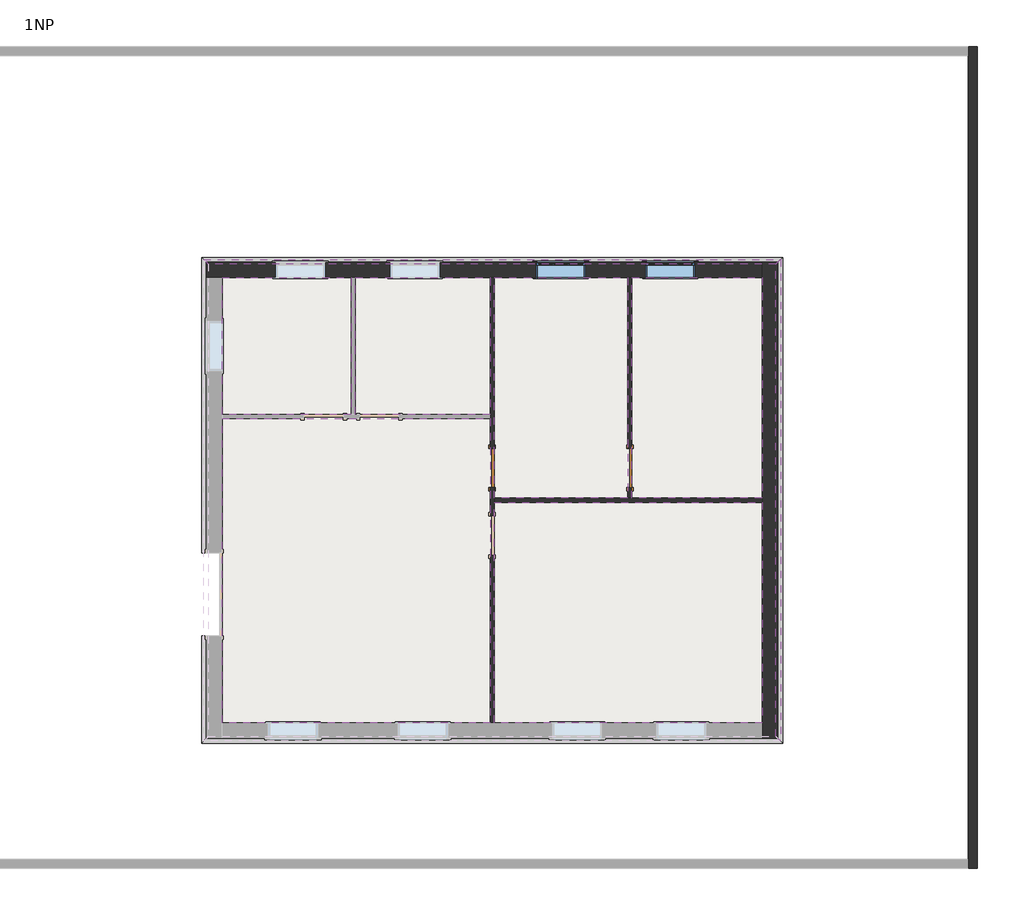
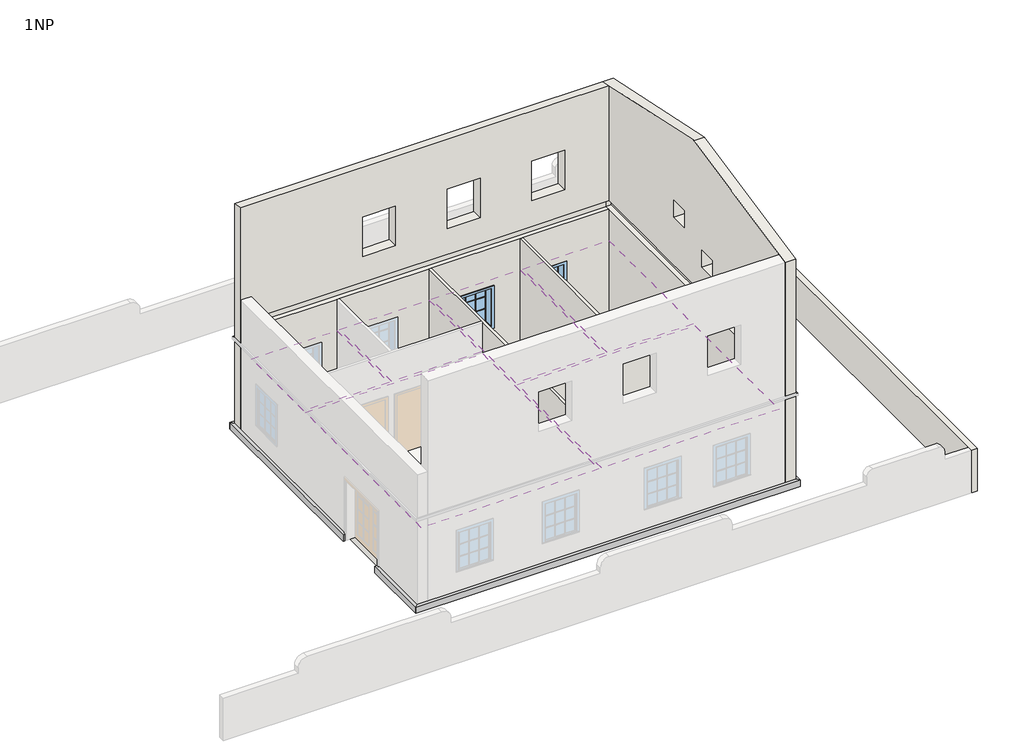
# One storey, part 2 of 2: 6 coverings, 6 proxies, 6 walls, 2 doors, 2 windows, 1 slab.
"""IFC4 building model written with IfcOpenShell, lengths in millimetres."""

from ifc_helpers import new_model, si_unit, frame, origin, origin_with_axes, place, context, project, spatial, polyline, outline, extrude, faceted_brep, transform, mapped, element, save
from components import m_single_flush_0864_x_2134mm_2f1c7364, m_casement_3x3_with_trim_1100_x_1400mm_61373874

model = new_model("IFC4")

# Units and contexts
model_context = context("Model", 3, world=origin())
ifc_project = project(units=[si_unit("LENGTHUNIT", "METRE", prefix="MILLI")], contexts=[model_context])

# Site, building, storey
site = spatial("IfcSite", under=ifc_project)
building = spatial("IfcBuilding", under=site)
storey = spatial("IfcBuildingStorey", under=building, Name="1NP", Elevation=0.0)

# Proxies
placement = place(None, origin())
element("IfcBuildingElementProxy", 1, Name="Wall Sweeps", at=placement, inside=storey, context=model_context, shape_type="Brep", body=[
    faceted_brep([(7957.8965437, -5261.3644596, 225.0), (7957.8965437, -5261.3644596, 0.0), (7855.3965437, -5158.8644596, 0.0), (7855.3965437, -5158.8644596, 225.0), (-4897.1034563, -5261.3644596, 225.0), (-4794.6034563, -5158.8644596, 225.0), (-4794.6034563, -5158.8644596, 0.0), (-4897.1034563, -5261.3644596, 0.0), (-4444.6034563, -5158.8644596, 0.0), (7505.3965437, -5158.8644596, 0.0)], [[[0, 1, 2, 3]], [[4, 5, 6, 7]], [[1, 0, 4, 7]], [[2, 1, 7, 6, 8, 9]], [[3, 2, 9, 8, 6, 5]], [[0, 3, 5, 4]]]),
])
element("IfcBuildingElementProxy", 2, Name="Reveals", at=placement, inside=storey, context=model_context, shape_type="SweptSolid", body=[
    extrude(outline(polyline([(-4749.6034563, 5346.1355404), (-4852.1034563, 5448.6355404), (7912.8965437, 5448.6355404), (7810.3965437, 5346.1355404), (-4749.6034563, 5346.1355404)])), frame((0.0, 0.0, 3200.0), z_axis=(0.0, 0.0, 1.0), x_axis=(1.0, 0.0, 0.0)), (0.0, 0.0, 1.0), 75.0),
])
element("IfcBuildingElementProxy", 3, Name="Wall Sweeps", at=placement, inside=storey, context=model_context, shape_type="Brep", body=[
    faceted_brep([(-4897.1034563, 5493.6355404, 225.0), (-4897.1034563, 5493.6355404, 0.0), (-4794.6034563, 5391.1355404, 0.0), (-4794.6034563, 5391.1355404, 225.0), (7957.8965437, 5493.6355404, 225.0), (7855.3965437, 5391.1355404, 225.0), (7855.3965437, 5391.1355404, 0.0), (7957.8965437, 5493.6355404, 0.0), (7505.3965437, 5391.1355404, 0.0)], [[[0, 1, 2, 3]], [[4, 5, 6, 7]], [[1, 0, 4, 7]], [[2, 1, 7, 6, 8]], [[3, 2, 8, 6, 5]], [[0, 3, 5, 4]]]),
])
element("IfcBuildingElementProxy", 4, Name="Wall Sweeps", at=placement, inside=storey, context=model_context, shape_type="Brep", body=[
    faceted_brep([(-4897.1034563, -5261.3644596, 225.0), (-4897.1034563, -5261.3644596, 0.0), (-4794.6034563, -5158.8644596, 0.0), (-4794.6034563, -5158.8644596, 225.0), (-4897.1034563, -2883.8644596, 225.0), (-4794.6034563, -2883.8644596, 225.0), (-4794.6034563, -2883.8644596, 0.0), (-4897.1034563, -2883.8644596, 0.0)], [[[0, 1, 2, 3]], [[4, 5, 6, 7]], [[1, 0, 4, 7]], [[2, 1, 7, 6]], [[3, 2, 6, 5]], [[0, 3, 5, 4]]]),
    faceted_brep([(-4897.1034563, -1053.8644596, 225.0), (-4897.1034563, -1053.8644596, 0.0), (-4794.6034563, -1053.8644596, 0.0), (-4794.6034563, -1053.8644596, 225.0), (-4897.1034563, 5493.6355404, 225.0), (-4794.6034563, 5391.1355404, 225.0), (-4794.6034563, 5391.1355404, 0.0), (-4897.1034563, 5493.6355404, 0.0), (-4794.6034563, 5041.1355404, 0.0)], [[[0, 1, 2, 3]], [[4, 5, 6, 7]], [[1, 0, 4, 7]], [[2, 1, 7, 6, 8]], [[3, 2, 8, 6, 5]], [[0, 3, 5, 4]]]),
])
element("IfcBuildingElementProxy", 5, Name="Reveals", at=placement, inside=storey, context=model_context, shape_type="SweptSolid", body=[
    extrude(outline(polyline([(7810.3965437, 5346.1355404), (7912.8965437, 5448.6355404), (7912.8965437, -5216.3644596), (7810.3965437, -5113.8644596), (7810.3965437, 5346.1355404)])), frame((0.0, 0.0, 3200.0), z_axis=(0.0, 0.0, 1.0), x_axis=(1.0, 0.0, 0.0)), (0.0, 0.0, 1.0), 75.0),
])
element("IfcBuildingElementProxy", 6, Name="Wall Sweeps", at=placement, inside=storey, context=model_context, shape_type="SweptSolid", body=[
    extrude(outline(polyline([(7855.3965437, 5391.1355404), (7957.8965437, 5493.6355404), (7957.8965437, -5261.3644596), (7855.3965437, -5158.8644596), (7855.3965437, 5391.1355404)])), origin_with_axes(), (0.0, 0.0, 1.0), 225.0),
])

# Coverings
element("IfcCovering", 7, ObjectType="600 x 600mm grid", at=placement, inside=storey, context=model_context, shape_type="SweptSolid", body=[
    extrude(outline(polyline([(-4444.6034563, -4808.8644596), (-4444.6034563, 1921.1355404), (1485.3965437, 1921.1355404), (1485.3965437, -4808.8644596), (-4444.6034563, -4808.8644596)])), frame((0.0, 0.0, 2600.0), z_axis=(0.0, 0.0, 1.0), x_axis=(1.0, 0.0, 0.0)), (0.0, 0.0, 1.0), 52.0),
])
element("IfcCovering", 8, ObjectType="600 x 600mm grid", at=placement, inside=storey, context=model_context, shape_type="SweptSolid", body=[
    extrude(outline(polyline([(-1499.6034563, 5041.1355404), (1485.3965437, 5041.1355404), (1485.3965437, 2011.1355404), (-1499.6034563, 2011.1355404), (-1499.6034563, 5041.1355404)])), frame((0.0, 0.0, 2600.0), z_axis=(0.0, 0.0, 1.0), x_axis=(1.0, 0.0, 0.0)), (0.0, 0.0, 1.0), 52.0),
])
element("IfcCovering", 9, ObjectType="600 x 600mm grid", at=placement, inside=storey, context=model_context, shape_type="SweptSolid", body=[
    extrude(outline(polyline([(-4444.6034563, 5041.1355404), (-1589.6034563, 5041.1355404), (-1589.6034563, 2011.1355404), (-4444.6034563, 2011.1355404), (-4444.6034563, 5041.1355404)])), frame((0.0, 0.0, 2600.0), z_axis=(0.0, 0.0, 1.0), x_axis=(1.0, 0.0, 0.0)), (0.0, 0.0, 1.0), 52.0),
])
element("IfcCovering", 10, ObjectType="600 x 600mm grid", at=placement, inside=storey, context=model_context, shape_type="SweptSolid", body=[
    extrude(outline(polyline([(1575.3965437, 161.1355404), (1575.3965437, 5041.1355404), (4535.3965437, 5041.1355404), (4535.3965437, 161.1355404), (1575.3965437, 161.1355404)])), frame((0.0, 0.0, 2600.0), z_axis=(0.0, 0.0, 1.0), x_axis=(1.0, 0.0, 0.0)), (0.0, 0.0, 1.0), 52.0),
])
element("IfcCovering", 11, ObjectType="600 x 600mm grid", at=placement, inside=storey, context=model_context, shape_type="SweptSolid", body=[
    extrude(outline(polyline([(4625.3965437, 5041.1355404), (7505.3965437, 5041.1355404), (7505.3965437, 161.1355404), (4625.3965437, 161.1355404), (4625.3965437, 5041.1355404)])), frame((0.0, 0.0, 2600.0), z_axis=(0.0, 0.0, 1.0), x_axis=(1.0, 0.0, 0.0)), (0.0, 0.0, 1.0), 52.0),
])
element("IfcCovering", 12, ObjectType="600 x 600mm grid", at=placement, inside=storey, context=model_context, shape_type="SweptSolid", body=[
    extrude(outline(polyline([(7505.3965437, -4808.8644596), (1575.3965437, -4808.8644596), (1575.3965437, 71.1355404), (7505.3965437, 71.1355404), (7505.3965437, -4808.8644596)])), frame((0.0, 0.0, 2600.0), z_axis=(0.0, 0.0, 1.0), x_axis=(1.0, 0.0, 0.0)), (0.0, 0.0, 1.0), 52.0),
])

# Doors
m_single_flush_0864_x_2134mm_shape = m_single_flush_0864_x_2134mm_2f1c7364(model_context)
element("IfcDoor", 13, ObjectType="M_Single-Flush : 0864 x 2134mm", at=placement, inside=storey, context=model_context, shape_type="MappedRepresentation", body=[
    mapped(m_single_flush_0864_x_2134mm_shape, transform((1530.3965437, 831.1817862, 0.0), x_axis=(0.0, -1.0, 0.0), y_axis=(1.0, 0.0, 0.0), z_axis=(0.0, 0.0, 1.0))),
])
element("IfcDoor", 14, ObjectType="M_Single-Flush : 0864 x 2134mm", at=placement, inside=storey, context=model_context, shape_type="MappedRepresentation", body=[
    mapped(m_single_flush_0864_x_2134mm_shape, transform((4580.3965437, 831.1817862, 0.0), x_axis=(0.0, -1.0, 0.0), y_axis=(1.0, 0.0, 0.0), z_axis=(0.0, 0.0, 1.0))),
])

# Slab
element("IfcSlab", 15, ObjectType="Generic 300mm", at=placement, inside=storey, context=model_context, shape_type="SweptSolid", body=[
    extrude(outline(polyline([(-4457.6034563, 5054.1355404), (7518.3965437, 5054.1355404), (7518.3965437, -4821.8644596), (-4457.6034563, -4821.8644596), (-4457.6034563, 5054.1355404)])), frame((0.0, 0.0, -300.0), z_axis=(0.0, 0.0, 1.0), x_axis=(1.0, 0.0, 0.0)), (0.0, 0.0, 1.0), 300.0),
])

# Walls
element("IfcWall", 16, ObjectType="Exterior - Brick on Mtl. Stud se základem", at=placement, inside=storey, context=model_context, shape_type="Brep", body=[
    faceted_brep([(-4794.6034563, 5041.1355404, 0.0), (-4444.6034563, 5041.1355404, 0.0), (-1589.6034563, 5041.1355404, 0.0), (-1499.6034563, 5041.1355404, 0.0), (1485.3965437, 5041.1355404, 0.0), (1575.3965437, 5041.1355404, 0.0), (4535.3965437, 5041.1355404, 0.0), (4625.3965437, 5041.1355404, 0.0), (7505.3965437, 5041.1355404, 0.0), (7505.3965437, 5041.1355404, 3700.0), (4625.3965437, 5041.1355404, 3700.0), (4535.3965437, 5041.1355404, 3700.0), (1575.3965437, 5041.1355404, 3700.0), (1485.3965437, 5041.1355404, 3700.0), (-1499.6034563, 5041.1355404, 3700.0), (-1589.6034563, 5041.1355404, 3700.0), (-4444.6034563, 5041.1355404, 3700.0), (-4609.6034563, 5041.1355404, 3700.0), (-4609.6034563, 5041.1355404, 4000.0), (-4444.6034563, 5041.1355404, 4000.0), (555.3965437, 5041.1355404, 4000.0), (655.3965437, 5041.1355404, 4000.0), (3655.3965437, 5041.1355404, 4000.0), (3755.3965437, 5041.1355404, 4000.0), (7505.3965437, 5041.1355404, 4000.0), (7505.3965437, 5041.1355404, 8074.3947966), (3755.3965437, 5041.1355404, 8074.3947966), (3655.3965437, 5041.1355404, 8074.3947966), (655.3965437, 5041.1355404, 8074.3947966), (555.3965437, 5041.1355404, 8074.3947966), (-4794.6034563, 5041.1355404, 8074.3947966), (-4794.6034563, 5041.1355404, 4800.0), (-4794.6034563, 5041.1355404, 3275.0), (-4749.6034563, 5041.1355404, 3275.0), (-4749.6034563, 5041.1355404, 3200.0), (-4794.6034563, 5041.1355404, 3200.0), (-4794.6034563, 5041.1355404, 225.0), (6022.8965437, 5041.1355404, 2315.0), (6022.8965437, 5041.1355404, 915.0), (4922.8965437, 5041.1355404, 915.0), (4922.8965437, 5041.1355404, 2315.0), (3597.8965437, 5041.1355404, 2315.0), (3597.8965437, 5041.1355404, 915.0), (2497.8965437, 5041.1355404, 915.0), (2497.8965437, 5041.1355404, 2315.0), (372.8965437, 5041.1355404, 2315.0), (372.8965437, 5041.1355404, 915.0), (-727.1034563, 5041.1355404, 915.0), (-727.1034563, 5041.1355404, 2315.0), (-2162.1034563, 5041.1355404, 2315.0), (-2162.1034563, 5041.1355404, 915.0), (-3262.1034563, 5041.1355404, 915.0), (-3262.1034563, 5041.1355404, 2315.0), (6022.8965437, 5041.1355404, 6315.0), (6022.8965437, 5041.1355404, 4915.0), (4922.8965437, 5041.1355404, 4915.0), (4922.8965437, 5041.1355404, 6315.0), (3197.8965437, 5041.1355404, 6315.0), (3197.8965437, 5041.1355404, 4915.0), (2097.8965437, 5041.1355404, 4915.0), (2097.8965437, 5041.1355404, 6315.0), (372.8965437, 5041.1355404, 6315.0), (372.8965437, 5041.1355404, 4915.0), (-727.1034563, 5041.1355404, 4915.0), (-727.1034563, 5041.1355404, 6315.0), (7505.3965437, 5391.1355404, 0.0), (-4794.6034563, 5391.1355404, 0.0), (-4794.6034563, 5391.1355404, 225.0), (-4794.6034563, 5391.1355404, 3200.0), (7505.3965437, 5391.1355404, 3200.0), (7505.3965437, 5391.1355404, 225.0), (6022.8965437, 5391.1355404, 915.0), (6022.8965437, 5391.1355404, 2315.0), (4922.8965437, 5391.1355404, 2315.0), (4922.8965437, 5391.1355404, 915.0), (3597.8965437, 5391.1355404, 915.0), (3597.8965437, 5391.1355404, 2315.0), (2497.8965437, 5391.1355404, 2315.0), (2497.8965437, 5391.1355404, 915.0), (372.8965437, 5391.1355404, 915.0), (372.8965437, 5391.1355404, 2315.0), (-727.1034563, 5391.1355404, 2315.0), (-727.1034563, 5391.1355404, 915.0), (-2162.1034563, 5391.1355404, 915.0), (-2162.1034563, 5391.1355404, 2315.0), (-3262.1034563, 5391.1355404, 2315.0), (-3262.1034563, 5391.1355404, 915.0), (-4794.6034563, 5391.1355404, 8000.0), (7505.3965437, 5391.1355404, 8000.0), (7505.3965437, 5391.1355404, 3275.0), (-4794.6034563, 5391.1355404, 3275.0), (6022.8965437, 5391.1355404, 4915.0), (6022.8965437, 5391.1355404, 6315.0), (4922.8965437, 5391.1355404, 6315.0), (4922.8965437, 5391.1355404, 4915.0), (3197.8965437, 5391.1355404, 4915.0), (3197.8965437, 5391.1355404, 6315.0), (2097.8965437, 5391.1355404, 6315.0), (2097.8965437, 5391.1355404, 4915.0), (372.8965437, 5391.1355404, 4915.0), (372.8965437, 5391.1355404, 6315.0), (-727.1034563, 5391.1355404, 6315.0), (-727.1034563, 5391.1355404, 4915.0), (7505.3965437, 5346.1355404, 3200.0), (7505.3965437, 5346.1355404, 3275.0), (7505.3965437, 5206.1355404, 4000.0), (7505.3965437, 5206.1355404, 3700.0), (-4609.6034563, 5206.1355404, 3700.0), (-4609.6034563, 5206.1355404, 4000.0), (-4749.6034563, 5346.1355404, 3275.0), (-4749.6034563, 5346.1355404, 3200.0)], [[[0, 1, 2, 3, 4, 5, 6, 7, 8, 9, 10, 11, 12, 13, 14, 15, 16, 17, 18, 19, 20, 21, 22, 23, 24, 25, 26, 27, 28, 29, 30, 31, 32, 33, 34, 35, 36], [37, 38, 39, 40], [41, 42, 43, 44], [45, 46, 47, 48], [49, 50, 51, 52], [53, 54, 55, 56], [57, 58, 59, 60], [61, 62, 63, 64]], [[65, 66, 67, 68, 69, 70], [71, 72, 73, 74], [75, 76, 77, 78], [79, 80, 81, 82], [83, 84, 85, 86]], [[87, 88, 89, 90], [91, 92, 93, 94], [95, 96, 97, 98], [99, 100, 101, 102]], [[8, 7, 6, 5, 4, 3, 2, 1, 0, 66, 65]], [[66, 0, 36, 35, 68, 67]], [[30, 87, 90, 32, 31]], [[8, 65, 70, 69, 103, 104, 89, 88, 25, 24, 105, 106, 9]], [[30, 29, 28, 27, 26, 25, 88, 87]], [[38, 37, 72, 71]], [[39, 38, 71, 74]], [[40, 39, 74, 73]], [[37, 40, 73, 72]], [[42, 41, 76, 75]], [[43, 42, 75, 78]], [[44, 43, 78, 77]], [[41, 44, 77, 76]], [[46, 45, 80, 79]], [[47, 46, 79, 82]], [[48, 47, 82, 81]], [[45, 48, 81, 80]], [[50, 49, 84, 83]], [[51, 50, 83, 86]], [[52, 51, 86, 85]], [[49, 52, 85, 84]], [[54, 53, 92, 91]], [[55, 54, 91, 94]], [[56, 55, 94, 93]], [[53, 56, 93, 92]], [[58, 57, 96, 95]], [[59, 58, 95, 98]], [[60, 59, 98, 97]], [[57, 60, 97, 96]], [[62, 61, 100, 99]], [[63, 62, 99, 102]], [[64, 63, 102, 101]], [[61, 64, 101, 100]], [[107, 17, 16, 15, 14, 13, 12, 11, 10, 9, 106]], [[108, 105, 24, 23, 22, 21, 20, 19, 18]], [[108, 107, 106, 105]], [[107, 108, 18, 17]], [[104, 109, 33, 32, 90, 89]], [[34, 110, 103, 69, 68, 35]], [[109, 110, 34, 33]], [[110, 109, 104, 103]]]),
])
element("IfcWall", 17, ObjectType="Exterior - Brick on Mtl. Stud se základem", at=placement, inside=storey, context=model_context, shape_type="Brep", body=[
    faceted_brep([(7505.3965437, 5391.1355404, 0.0), (7505.3965437, 5041.1355404, 0.0), (7505.3965437, 161.1355404, 0.0), (7505.3965437, 71.1355404, 0.0), (7505.3965437, -4808.8644596, 0.0), (7505.3965437, -5158.8644596, 0.0), (7505.3965437, -5158.8644596, 225.0), (7505.3965437, -5158.8644596, 3200.0), (7505.3965437, -5113.8644596, 3200.0), (7505.3965437, -5113.8644596, 3275.0), (7505.3965437, -5158.8644596, 3275.0), (7505.3965437, -5158.8644596, 8000.0), (7505.3965437, -4808.8644596, 8074.3947966), (7505.3965437, -2108.8644596, 8648.2975131), (7505.3965437, -2008.8644596, 8669.5531693), (7505.3965437, 66.1355404, 9110.6080347), (7505.3965437, 116.1355404, 9121.2358628), (7505.3965437, 166.1355404, 9110.6080347), (7505.3965437, 2241.1355404, 8669.5531693), (7505.3965437, 2341.1355404, 8648.2975131), (7505.3965437, 5041.1355404, 8074.3947966), (7505.3965437, 5391.1355404, 8000.0), (7505.3965437, 5391.1355404, 3275.0), (7505.3965437, 5346.1355404, 3275.0), (7505.3965437, 5346.1355404, 3200.0), (7505.3965437, 5391.1355404, 3200.0), (7505.3965437, 5391.1355404, 225.0), (7505.3965437, 666.1355404, 6315.0), (7505.3965437, 666.1355404, 5705.0), (7505.3965437, 1276.1355404, 5705.0), (7505.3965437, 1276.1355404, 6315.0), (7505.3965437, -943.8644596, 5525.0), (7505.3965437, -943.8644596, 4915.0), (7505.3965437, -333.8644596, 4915.0), (7505.3965437, -333.8644596, 5525.0), (7505.3965437, -4973.8644596, 3700.0), (7505.3965437, -4808.8644596, 3700.0), (7505.3965437, 71.1355404, 3700.0), (7505.3965437, 161.1355404, 3700.0), (7505.3965437, 5041.1355404, 3700.0), (7505.3965437, 5206.1355404, 3700.0), (7505.3965437, 5206.1355404, 4000.0), (7505.3965437, 5041.1355404, 4000.0), (7505.3965437, 2341.1355404, 4000.0), (7505.3965437, 2241.1355404, 4000.0), (7505.3965437, 166.1355404, 4000.0), (7505.3965437, 66.1355404, 4000.0), (7505.3965437, -2008.8644596, 4000.0), (7505.3965437, -2108.8644596, 4000.0), (7505.3965437, -4808.8644596, 4000.0), (7505.3965437, -4973.8644596, 4000.0), (7855.3965437, -5158.8644596, 0.0), (7855.3965437, 5391.1355404, 0.0), (7855.3965437, 5391.1355404, 225.0), (7855.3965437, 5391.1355404, 3200.0), (7855.3965437, -5158.8644596, 3200.0), (7855.3965437, -5158.8644596, 225.0), (7855.3965437, 5391.1355404, 8000.0), (7855.3965437, 116.1355404, 9121.2358628), (7855.3965437, -5158.8644596, 8000.0), (7855.3965437, -5158.8644596, 3275.0), (7855.3965437, 5391.1355404, 3275.0), (7855.3965437, 666.1355404, 5705.0), (7855.3965437, 666.1355404, 6315.0), (7855.3965437, 1276.1355404, 6315.0), (7855.3965437, 1276.1355404, 5705.0), (7855.3965437, -943.8644596, 4915.0), (7855.3965437, -943.8644596, 5525.0), (7855.3965437, -333.8644596, 5525.0), (7855.3965437, -333.8644596, 4915.0), (7670.3965437, -4973.8644596, 3700.0), (7670.3965437, 5206.1355404, 3700.0), (7670.3965437, 5206.1355404, 4000.0), (7670.3965437, -4973.8644596, 4000.0), (7810.3965437, -5113.8644596, 3275.0), (7810.3965437, 5346.1355404, 3275.0), (7810.3965437, 5346.1355404, 3200.0), (7810.3965437, -5113.8644596, 3200.0)], [[[0, 1, 2, 3, 4, 5, 6, 7, 8, 9, 10, 11, 12, 13, 14, 15, 16, 17, 18, 19, 20, 21, 22, 23, 24, 25, 26], [27, 28, 29, 30], [31, 32, 33, 34], [35, 36, 37, 38, 39, 40, 41, 42, 43, 44, 45, 46, 47, 48, 49, 50]], [[51, 52, 53, 54, 55, 56]], [[57, 58, 59, 60, 61], [62, 63, 64, 65], [66, 67, 68, 69]], [[5, 4, 3, 2, 1, 0, 52, 51]], [[21, 57, 61, 22]], [[52, 0, 26, 25, 54, 53]], [[5, 51, 56, 55, 7, 6]], [[59, 11, 10, 60]], [[57, 21, 20, 19, 18, 17, 16, 58]], [[11, 59, 58, 16, 15, 14, 13, 12]], [[28, 27, 63, 62]], [[29, 28, 62, 65]], [[30, 29, 65, 64]], [[27, 30, 64, 63]], [[32, 31, 67, 66]], [[33, 32, 66, 69]], [[34, 33, 69, 68]], [[31, 34, 68, 67]], [[70, 71, 40, 39, 38, 37, 36, 35]], [[72, 73, 50, 49, 48, 47, 46, 45, 44, 43, 42, 41]], [[71, 72, 41, 40]], [[71, 70, 73, 72]], [[73, 70, 35, 50]], [[74, 75, 23, 22, 61, 60, 10, 9]], [[76, 77, 8, 7, 55, 54, 25, 24]], [[75, 76, 24, 23]], [[75, 74, 77, 76]], [[77, 74, 9, 8]]]),
])
element("IfcWall", 18, ObjectType="Generic - 200mm", at=placement, inside=storey, context=model_context, shape_type="Brep", body=[
    faceted_brep([(12071.5198924, 10163.4874545, 0.0), (12071.5198924, 9963.4874545, 0.0), (12071.5198924, -7836.5125455, 0.0), (12071.5198924, -8036.5125455, 0.0), (12071.5198924, -8036.5125455, 1500.0), (12071.5198924, -7836.5125455, 1500.0), (12071.5198924, 9963.4874545, 1500.0), (12071.5198924, 10163.4874545, 1500.0), (12271.5198924, 10163.4874545, 0.0), (12271.5198924, 10163.4874545, 1500.0), (12271.5198924, -8036.5125455, 1500.0), (12271.5198924, -8036.5125455, 0.0)], [[[0, 1, 2, 3, 4, 5, 6, 7]], [[8, 9, 10, 11]], [[3, 2, 1, 0, 8, 11]], [[7, 6, 5, 4, 10, 9]], [[0, 7, 9, 8]], [[4, 3, 11, 10]]]),
])
element("IfcWall", 19, ObjectType="Generic - 90mm Brick", at=placement, inside=storey, context=model_context, shape_type="Brep", body=[
    faceted_brep([(1485.3965437, 399.1817862, 0.0), (1485.3965437, -233.8644596, 0.0), (1485.3965437, -233.8644596, 2134.0), (1485.3965437, -1097.8644596, 2134.0), (1485.3965437, -1097.8644596, 0.0), (1485.3965437, -4808.8644596, 0.0), (1485.3965437, -4808.8644596, 3700.0), (1485.3965437, 1921.1355404, 3700.0), (1485.3965437, 2011.1355404, 3700.0), (1485.3965437, 5041.1355404, 3700.0), (1485.3965437, 5041.1355404, 0.0), (1485.3965437, 2011.1355404, 0.0), (1485.3965437, 1921.1355404, 0.0), (1485.3965437, 1263.1817862, 0.0), (1485.3965437, 1263.1817862, 2134.0), (1485.3965437, 399.1817862, 2134.0), (1575.3965437, -233.8644596, 2134.0), (1575.3965437, -233.8644596, 0.0), (1575.3965437, 71.1355404, 0.0), (1575.3965437, 161.1355404, 0.0), (1575.3965437, 399.1817862, 0.0), (1575.3965437, 399.1817862, 2134.0), (1575.3965437, 1263.1817862, 2134.0), (1575.3965437, 1263.1817862, 0.0), (1575.3965437, 5041.1355404, 0.0), (1575.3965437, 5041.1355404, 3700.0), (1575.3965437, 161.1355404, 3700.0), (1575.3965437, 71.1355404, 3700.0), (1575.3965437, -4808.8644596, 3700.0), (1575.3965437, -4808.8644596, 0.0), (1575.3965437, -1097.8644596, 0.0), (1575.3965437, -1097.8644596, 2134.0)], [[[0, 1, 2, 3, 4, 5, 6, 7, 8, 9, 10, 11, 12, 13, 14, 15]], [[16, 17, 18, 19, 20, 21, 22, 23, 24, 25, 26, 27, 28, 29, 30, 31]], [[20, 19, 18, 17, 1, 0]], [[13, 12, 11, 10, 24, 23]], [[30, 29, 5, 4]], [[6, 5, 29, 28]], [[10, 9, 25, 24]], [[9, 8, 7, 6, 28, 27, 26, 25]], [[21, 20, 0, 15]], [[22, 21, 15, 14]], [[23, 22, 14, 13]], [[2, 1, 17, 16]], [[3, 2, 16, 31]], [[4, 3, 31, 30]]]),
])
element("IfcWall", 20, ObjectType="Generic - 90mm Brick", at=placement, inside=storey, context=model_context, shape_type="Brep", body=[
    faceted_brep([(1575.3965437, 71.1355404, 0.0), (7505.3965437, 71.1355404, 0.0), (7505.3965437, 71.1355404, 3700.0), (1575.3965437, 71.1355404, 3700.0), (1575.3965437, 161.1355404, 0.0), (1575.3965437, 161.1355404, 3700.0), (4535.3965437, 161.1355404, 3700.0), (4625.3965437, 161.1355404, 3700.0), (7505.3965437, 161.1355404, 3700.0), (7505.3965437, 161.1355404, 0.0), (4625.3965437, 161.1355404, 0.0), (4535.3965437, 161.1355404, 0.0)], [[[0, 1, 2, 3]], [[4, 5, 6, 7, 8, 9, 10, 11]], [[1, 0, 4, 11, 10, 9]], [[2, 1, 9, 8]], [[0, 3, 5, 4]], [[3, 2, 8, 7, 6, 5]]]),
])
element("IfcWall", 21, ObjectType="Generic - 90mm Brick", at=placement, inside=storey, context=model_context, shape_type="SweptSolid", body=[
    extrude(outline(polyline([(399.1817862, 2134.0), (399.1817862, 0.0), (161.1355404, 0.0), (161.1355404, 3700.0), (5041.1355404, 3700.0), (5041.1355404, 0.0), (1263.1817862, 0.0), (1263.1817862, 2134.0), (399.1817862, 2134.0)])), frame((4535.3965437, 0.0, 0.0), z_axis=(1.0, 0.0, 0.0), x_axis=(0.0, 1.0, 0.0)), (0.0, 0.0, 1.0), 90.0),
])

# Windows
m_casement_3x3_with_trim_1100_x_1400mm_shape = m_casement_3x3_with_trim_1100_x_1400mm_61373874(model_context)
element("IfcWindow", 22, ObjectType="M_Casement 3x3 with Trim : 1100 x 1400mm", at=placement, inside=storey, context=model_context, shape_type="MappedRepresentation", body=[
    mapped(m_casement_3x3_with_trim_1100_x_1400mm_shape, transform((5472.8965437, 5216.1355404, 0.0), x_axis=(1.0, 0.0, 0.0), y_axis=(0.0, 1.0, 0.0), z_axis=(0.0, 0.0, 1.0))),
])
element("IfcWindow", 23, ObjectType="M_Casement 3x3 with Trim : 1100 x 1400mm", at=placement, inside=storey, context=model_context, shape_type="MappedRepresentation", body=[
    mapped(m_casement_3x3_with_trim_1100_x_1400mm_shape, transform((3047.8965437, 5216.1355404, 0.0), x_axis=(1.0, 0.0, 0.0), y_axis=(0.0, 1.0, 0.0), z_axis=(0.0, 0.0, 1.0))),
])

save(model, "model.ifc")
